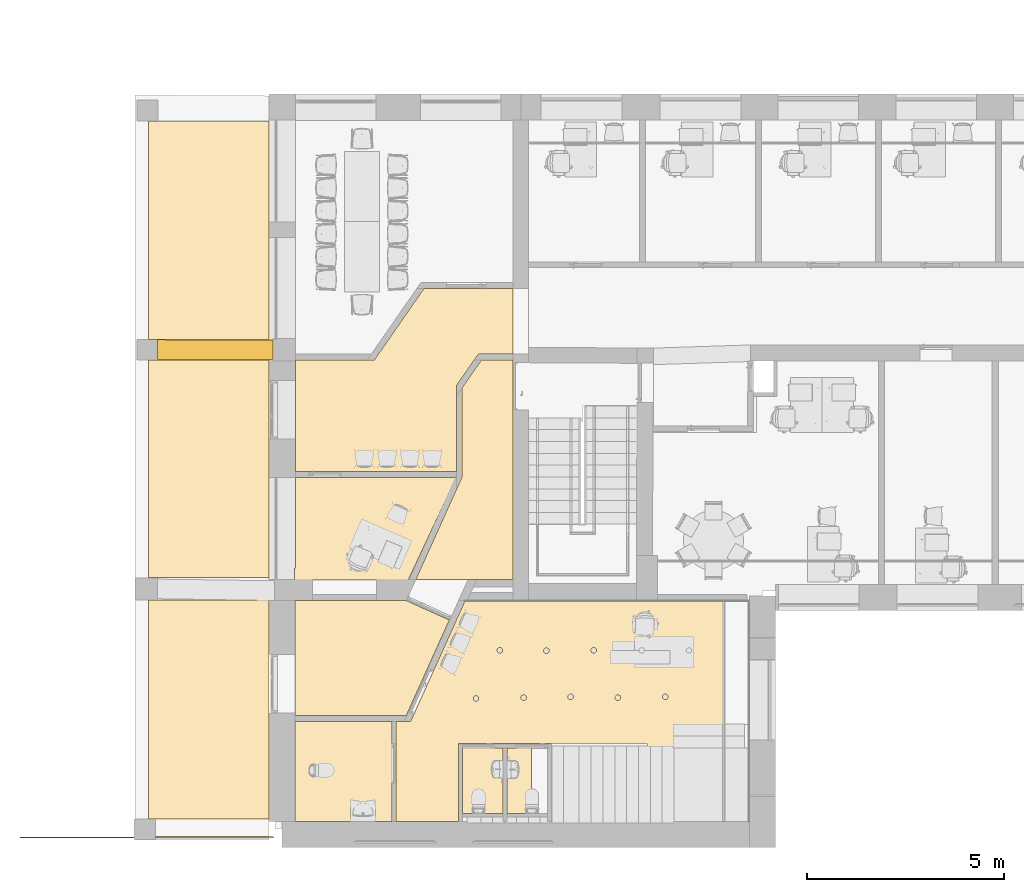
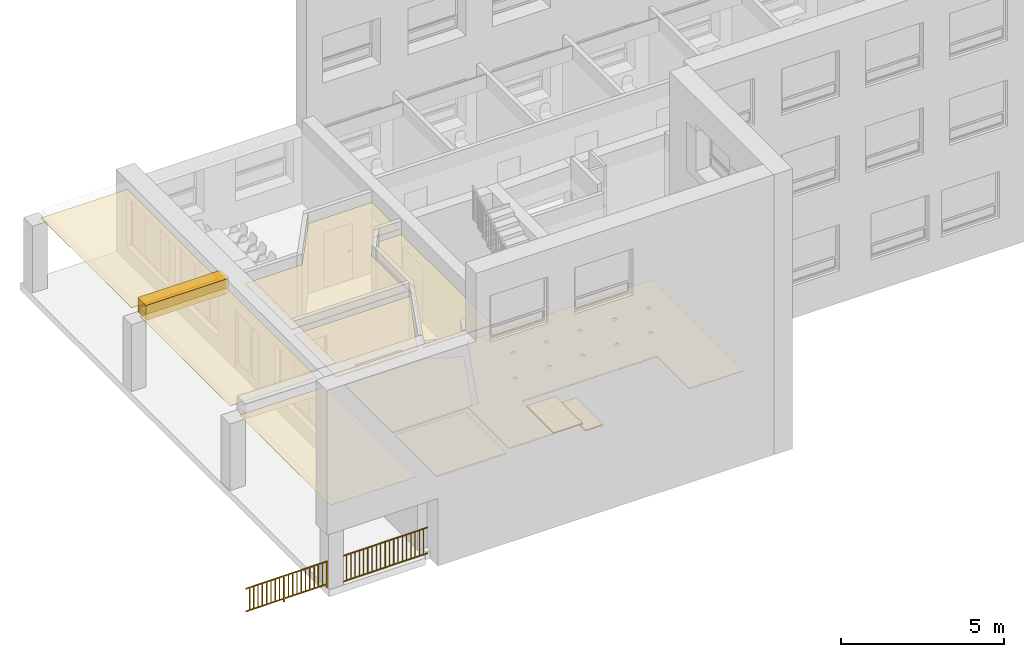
# One storey, part 19 of 25: 12 coverings, 2 railings.
"""IFC2X3 building model written with IfcOpenShell, lengths in millimetres."""

import ifcopenshell
import ifcopenshell.guid

model = None  # the IFC model being written
_history = None  # IfcOwnerHistory: only IFC2X3 demands one
_inside = {}  # id of a spatial element -> (the spatial element, [elements in it])
_under = {}  # id of a project, library or spatial element -> (it, [spatial elements below it])
_declared = {}  # id of a project -> (the project, [libraries it declares])
_typed = {}  # id of a type object -> (the type object, [elements of that type])
_made_of = {}  # id of a material, layer set ... -> (it, [elements and type objects made of it])


def new_model(schema):
    """Start an empty IFC model of exactly this schema.

    Asked for "IFC4X3", IfcOpenShell would pick the latest addendum, in which some entities
    have other attributes; the version numbers below select the first issue.
    IFC2X3 requires an IfcOwnerHistory on every rooted entity: one is made here for all.
    """
    global model, _history
    if schema == "IFC4X3":
        model = ifcopenshell.file(schema_version=(4, 3, 0, 0))
    else:
        model = ifcopenshell.file(schema=schema)
    _inside.clear()
    _under.clear()
    _declared.clear()
    _typed.clear()
    _made_of.clear()
    _history = None
    if model.schema == "IFC2X3":
        org = make("IfcOrganization", Name="unknown")
        user = make(
            "IfcPersonAndOrganization",
            ThePerson=make("IfcPerson", FamilyName="unknown"),
            TheOrganization=org,
        )
        app = make(
            "IfcApplication",
            ApplicationDeveloper=org,
            Version="unknown",
            ApplicationFullName="unknown",
            ApplicationIdentifier="unknown",
        )
        _history = make(
            "IfcOwnerHistory",
            OwningUser=user,
            OwningApplication=app,
            ChangeAction="ADDED",
            CreationDate=0,
        )
    return model


def make(cls, **values):
    """One entity of the class cls with the attributes given. An attribute that is None is left unset."""
    return model.create_entity(
        cls, **{name: value for name, value in values.items() if value is not None}
    )


def entity(cls, *values):
    """Any entity or typed value of the class cls, its attributes in the order of the schema. None: left unset."""
    e = model.create_entity(cls)
    for i, value in enumerate(values):
        if value is not None:
            e[i] = value
    return e


def rooted(cls, **values):
    """An entity with a GlobalId (a new one), such as an element, a storey or a relation."""
    return make(cls, GlobalId=ifcopenshell.guid.new(), OwnerHistory=_history, **values)


def si_unit(unit_type, name, prefix=None):
    """IfcSIUnit, for example si_unit("LENGTHUNIT", "METRE", prefix="MILLI")."""
    return make("IfcSIUnit", UnitType=unit_type, Prefix=prefix, Name=name)


def converted_unit(unit_type, name, factor, base, dimensions=None, offset=None):
    """IfcConversionBasedUnit, such as the inch: factor (a typed value) times the base unit."""
    return make(
        "IfcConversionBasedUnit"
        if offset is None
        else "IfcConversionBasedUnitWithOffset",
        ConversionOffset=offset,
        Dimensions=None
        if dimensions is None
        else entity("IfcDimensionalExponents", *dimensions),
        UnitType=unit_type,
        Name=name,
        ConversionFactor=make(
            "IfcMeasureWithUnit", ValueComponent=factor, UnitComponent=base
        ),
    )


def derived_unit(unit_type, elements):
    """IfcDerivedUnit: a product of units, each with its exponent."""
    return make(
        "IfcDerivedUnit",
        Elements=[
            make("IfcDerivedUnitElement", Unit=unit, Exponent=power)
            for unit, power in elements
        ],
        UnitType=unit_type,
    )


def assignment(units):
    """IfcUnitAssignment: the units of a project."""
    return None if units is None else make("IfcUnitAssignment", Units=units)


def point(xyz):
    """IfcCartesianPoint."""
    return None if xyz is None else make("IfcCartesianPoint", Coordinates=xyz)


def direction(xyz):
    """IfcDirection."""
    return None if xyz is None else make("IfcDirection", DirectionRatios=xyz)


def frame(location, z_axis=None, x_axis=None):
    """IfcAxis2Placement3D, a coordinate frame: its origin and axes. An axis left out is left unset."""
    return make(
        "IfcAxis2Placement3D",
        Location=point(location),
        Axis=direction(z_axis),
        RefDirection=direction(x_axis),
    )


def frame_2d(location, x_axis=None):
    """IfcAxis2Placement2D, a coordinate frame in the plane: its origin and x axis."""
    return make(
        "IfcAxis2Placement2D", Location=point(location), RefDirection=direction(x_axis)
    )


def origin():
    """The frame at (0, 0, 0) with its axes left unset."""
    return frame((0.0, 0.0, 0.0))


def place(relative_to, where):
    """IfcLocalPlacement: puts the frame where relative to a parent placement (None: the world)."""
    return make(
        "IfcLocalPlacement", PlacementRelTo=relative_to, RelativePlacement=where
    )


def context(
    kind, dimensions, precision=None, world=None, true_north=None, identifier=None
):
    """IfcGeometricRepresentationContext, for example the 3D "Model" context."""
    return make(
        "IfcGeometricRepresentationContext",
        ContextIdentifier=identifier,
        ContextType=kind,
        CoordinateSpaceDimension=dimensions,
        Precision=precision,
        WorldCoordinateSystem=world,
        TrueNorth=true_north,
    )


def subcontext(parent, identifier, kind, view, scale=None):
    """IfcGeometricRepresentationSubContext, for example "Body" below "Model"."""
    return make(
        "IfcGeometricRepresentationSubContext",
        ContextIdentifier=identifier,
        ContextType=kind,
        ParentContext=parent,
        TargetScale=scale,
        TargetView=view,
    )


def project(units=None, contexts=None):
    """IfcProject with its units and contexts."""
    return rooted(
        "IfcProject",
        Name="project",
        RepresentationContexts=contexts,
        UnitsInContext=assignment(units),
    )


def spatial(cls, under=None, at=None, **own):
    """A site, building, storey or space (cls), placed at a placement, below another one or the project."""
    s = rooted(cls, ObjectPlacement=at, **own)
    if under is not None:
        _under.setdefault(under.id(), (under, []))[1].append(s)
    return s


def polyline(points):
    """IfcPolyline through the points."""
    return make("IfcPolyline", Points=[point(p) for p in points])


def circle_curve(where, radius):
    """IfcCircle in the frame where."""
    return make("IfcCircle", Position=where, Radius=radius)


def parameter(value):
    """IfcParameterValue: where a trimmed curve begins or ends, as a parameter of its basis curve."""
    return model.create_entity("IfcParameterValue", value)


def trimmed(basis, trim1, trim2, sense, master):
    """IfcTrimmedCurve: the piece of a basis curve between two trims."""
    return make(
        "IfcTrimmedCurve",
        BasisCurve=basis,
        Trim1=trim1,
        Trim2=trim2,
        SenseAgreement=sense,
        MasterRepresentation=master,
    )


def segment(curve, same_sense, transition):
    """IfcCompositeCurveSegment."""
    return make(
        "IfcCompositeCurveSegment",
        Transition=transition,
        SameSense=same_sense,
        ParentCurve=curve,
    )


def composite_curve(segments, self_intersect=None):
    """IfcCompositeCurve: segments joined end to end."""
    return make("IfcCompositeCurve", Segments=segments, SelfIntersect=self_intersect)


def profile(cls, at=None, kind="AREA", **sizes):
    """A parametric profile (cls). Its sizes go by their IFC names, for example OverallWidth=200.0."""
    return make(cls, ProfileType=kind, Position=at, **sizes)


def rectangle(**sizes):
    """IfcRectangleProfileDef."""
    return profile("IfcRectangleProfileDef", **sizes)


def outline(outer, holes=None, kind="AREA"):
    """IfcArbitraryClosedProfileDef: a profile drawn as a closed curve; with holes, ...WithVoids."""
    if holes is None:
        return make("IfcArbitraryClosedProfileDef", ProfileType=kind, OuterCurve=outer)
    return make(
        "IfcArbitraryProfileDefWithVoids",
        ProfileType=kind,
        OuterCurve=outer,
        InnerCurves=holes,
    )


def extrude(swept, where, along, depth):
    """IfcExtrudedAreaSolid: the profile swept, set in the frame where, extruded along a direction by depth."""
    return make(
        "IfcExtrudedAreaSolid",
        SweptArea=swept,
        Position=where,
        ExtrudedDirection=direction(along),
        Depth=depth,
    )


def shape(context_of_items, identifier, shape_type, items):
    """IfcShapeRepresentation: the items that make up one representation, for example the "Body"."""
    return make(
        "IfcShapeRepresentation",
        ContextOfItems=context_of_items,
        RepresentationIdentifier=identifier,
        RepresentationType=shape_type,
        Items=items,
    )


def source(mapping_origin, context_of_items, identifier, shape_type, items):
    """IfcRepresentationMap: a shape defined once, which mapped items show again and again."""
    return make(
        "IfcRepresentationMap",
        MappingOrigin=mapping_origin,
        MappedRepresentation=shape(context_of_items, identifier, shape_type, items),
    )


def transform(
    local_origin,
    x_axis=None,
    y_axis=None,
    z_axis=None,
    scale=None,
    scale2=None,
    scale3=None,
    uniform=True,
):
    """IfcCartesianTransformationOperator3D, or its non-uniform kind. x_axis, y_axis, z_axis: its Axis1, 2, 3."""
    if uniform:
        return make(
            "IfcCartesianTransformationOperator3D",
            Axis1=direction(x_axis),
            Axis2=direction(y_axis),
            LocalOrigin=point(local_origin),
            Scale=scale,
            Axis3=direction(z_axis),
        )
    return make(
        "IfcCartesianTransformationOperator3DnonUniform",
        Axis1=direction(x_axis),
        Axis2=direction(y_axis),
        LocalOrigin=point(local_origin),
        Scale=scale,
        Axis3=direction(z_axis),
        Scale2=scale2,
        Scale3=scale3,
    )


def mapped(mapping_source, mapping_target):
    """IfcMappedItem: shows the shape of a source again, moved by a transform."""
    return make(
        "IfcMappedItem", MappingSource=mapping_source, MappingTarget=mapping_target
    )


def material(Name=None, Category=None):
    """IfcMaterial."""
    return make("IfcMaterial", Name=Name, Category=Category)


def layer(
    of_material, thickness, ventilated=None, Name=None, Category=None, Priority=None
):
    """IfcMaterialLayer: one layer of a wall or slab, of a material (None: an air gap)."""
    return make(
        "IfcMaterialLayer",
        Material=of_material,
        LayerThickness=thickness,
        IsVentilated=ventilated,
        Name=Name,
        Category=Category,
        Priority=Priority,
    )


def layer_set(layers, Name=None):
    """IfcMaterialLayerSet."""
    return make("IfcMaterialLayerSet", MaterialLayers=layers, LayerSetName=Name)


def layer_usage(for_layer_set, set_direction, sense, offset, extent=None):
    """IfcMaterialLayerSetUsage: how a layer set lies in its element."""
    return make(
        "IfcMaterialLayerSetUsage",
        ForLayerSet=for_layer_set,
        LayerSetDirection=set_direction,
        DirectionSense=sense,
        OffsetFromReferenceLine=offset,
        ReferenceExtent=extent,
    )


def made_of(thing, what):
    """Note that an element or type object is made of a material, layer set ...; save() writes the relation."""
    if what is not None:
        _made_of.setdefault(what.id(), (what, []))[1].append(thing)
    return thing


def type_object(cls, material=None, **own):
    """A type object (cls), such as IfcWallType, which elements share."""
    return made_of(rooted(cls, **own), material)


def type_shapes(of_type, sources):
    """Give a type object the sources (RepresentationMaps) that its elements show as mapped items."""
    of_type.RepresentationMaps = sources


def element(
    cls,
    number,
    at=None,
    inside=None,
    cuts=None,
    type_object=None,
    material=None,
    context=None,
    identifier="Body",
    shape_type=None,
    held_by="IfcProductDefinitionShape",
    body=None,
    shapes=None,
    **own,
):
    """One element of the class cls, such as IfcWall. Its Tag is "e" and its number.

    at: its placement. inside: the storey or other place that contains it. cuts: it is an
    opening in that element (IfcRelVoidsElement). A single representation is given by context,
    identifier, shape_type and body (its items); several are given by shapes. held_by: the class
    of the entity that holds the representations. save() writes the other relations.
    """
    e = rooted(cls, Tag="e%d" % number, ObjectPlacement=at, **own)
    if body is not None:
        shapes = [shape(context, identifier, shape_type, body)]
    if shapes is not None:
        e.Representation = make(held_by, Representations=shapes)
    if inside is not None:
        _inside.setdefault(inside.id(), (inside, []))[1].append(e)
    if cuts is not None:
        rooted(
            "IfcRelVoidsElement", RelatingBuildingElement=cuts, RelatedOpeningElement=e
        )
    if type_object is not None:
        _typed.setdefault(type_object.id(), (type_object, []))[1].append(e)
    return made_of(e, material)


def aggregate(whole, parts):
    """IfcRelAggregates: a whole, such as a stair, and the parts it consists of."""
    return rooted("IfcRelAggregates", RelatingObject=whole, RelatedObjects=parts)


def save(model, path):
    """Write the relations noted so far, then the file.

    IfcRelAggregates (storeys below a building ...), IfcRelContainedInSpatialStructure (elements
    in a storey), IfcRelDefinesByType, IfcRelAssociatesMaterial and IfcRelDeclares: one each for
    every whole, place, type object, material and project.
    """
    for whole, parts in _under.values():
        aggregate(whole, parts)
    for where, things in _inside.values():
        rooted(
            "IfcRelContainedInSpatialStructure",
            RelatedElements=things,
            RelatingStructure=where,
        )
    for kind, things in _typed.values():
        rooted("IfcRelDefinesByType", RelatedObjects=things, RelatingType=kind)
    for what, things in _made_of.values():
        rooted("IfcRelAssociatesMaterial", RelatedObjects=things, RelatingMaterial=what)
    for by, libraries in _declared.values():
        rooted("IfcRelDeclares", RelatingContext=by, RelatedDefinitions=libraries)
    model.write(path)


model = new_model("IFC2X3")

# Units and contexts
model_context = context("Model", 3, precision=0.01, world=origin(), true_north=direction((6.12303176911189e-17, 1.0)))
context_of_model = context(None, 3, precision=0.01, world=origin(), true_north=direction((6.12303176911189e-17, 1.0)))
body_context = subcontext(model_context, "Body", "Model", "MODEL_VIEW")
ifc_project = project(units=[si_unit("LENGTHUNIT", "METRE", prefix="MILLI"), si_unit("AREAUNIT", "SQUARE_METRE"), si_unit("VOLUMEUNIT", "CUBIC_METRE"), converted_unit("PLANEANGLEUNIT", "DEGREE", entity("IfcRatioMeasure", 0.0174532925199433), si_unit("PLANEANGLEUNIT", "RADIAN"), dimensions=[0, 0, 0, 0, 0, 0, 0]), si_unit("MASSUNIT", "GRAM", prefix="KILO"), derived_unit("MASSDENSITYUNIT", [(si_unit("MASSUNIT", "GRAM", prefix="KILO"), 1), (si_unit("LENGTHUNIT", "METRE"), -3)]), si_unit("TIMEUNIT", "SECOND"), si_unit("FREQUENCYUNIT", "HERTZ"), si_unit("THERMODYNAMICTEMPERATUREUNIT", "DEGREE_CELSIUS"), derived_unit("THERMALTRANSMITTANCEUNIT", [(si_unit("MASSUNIT", "GRAM", prefix="KILO"), 1), (si_unit("THERMODYNAMICTEMPERATUREUNIT", "KELVIN"), -1), (si_unit("TIMEUNIT", "SECOND"), -3)]), derived_unit("VOLUMETRICFLOWRATEUNIT", [(si_unit("LENGTHUNIT", "METRE"), 3), (si_unit("TIMEUNIT", "SECOND"), -1)]), si_unit("ELECTRICCURRENTUNIT", "AMPERE"), si_unit("ELECTRICVOLTAGEUNIT", "VOLT"), si_unit("POWERUNIT", "WATT"), si_unit("FORCEUNIT", "NEWTON", prefix="KILO"), si_unit("ILLUMINANCEUNIT", "LUX"), si_unit("LUMINOUSFLUXUNIT", "LUMEN"), si_unit("LUMINOUSINTENSITYUNIT", "CANDELA"), derived_unit("USERDEFINED", [(si_unit("MASSUNIT", "GRAM", prefix="KILO"), -1), (si_unit("LENGTHUNIT", "METRE"), -2), (si_unit("TIMEUNIT", "SECOND"), 3), (si_unit("LUMINOUSFLUXUNIT", "LUMEN"), 1)]), derived_unit("LINEARVELOCITYUNIT", [(si_unit("LENGTHUNIT", "METRE"), 1), (si_unit("TIMEUNIT", "SECOND"), -1)]), si_unit("PRESSUREUNIT", "PASCAL"), derived_unit("USERDEFINED", [(si_unit("LENGTHUNIT", "METRE"), -2), (si_unit("MASSUNIT", "GRAM", prefix="KILO"), 1), (si_unit("TIMEUNIT", "SECOND"), -2)])], contexts=[model_context, context_of_model])

# Site, building, storey
site_placement = place(None, frame((121442.264707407, 135347.995453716, -1800.0)))
site = spatial("IfcSite", under=ifc_project, at=site_placement, Name="Surface", CompositionType="ELEMENT")
building_placement = place(site_placement, origin())
building = spatial("IfcBuilding", under=site, at=building_placement, CompositionType="ELEMENT")
storey_placement = place(building_placement, frame((0.0, 0.0, 1800.0)))
storey = spatial("IfcBuildingStorey", under=building, at=storey_placement, Name="1 korrus", CompositionType="ELEMENT", Elevation=1800.00000000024)

# Railings
railing_type_1 = type_object("IfcRailingType", Name="Railings 3", PredefinedType="NOTDEFINED")
shared_shape_1 = source(origin(), body_context, "Body", "SweptSolid", [
    extrude(outline(polyline([(-670.945779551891, -1668.52420160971), (322.428053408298, -1668.52420160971), (322.428053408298, -1626.31091059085), (214.475458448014, -1626.31091059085), (221.083592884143, -149.01876920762), (322.595234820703, -149.01876920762), (322.595234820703, -106.519473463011), (221.273698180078, -106.519473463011), (227.245234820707, 1228.45702201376), (192.245234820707, 1228.45702201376), (191.641371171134, 1093.45931084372), (-617.05585687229, 1093.45931084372), (-616.2547651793, 1228.45702201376), (-653.7547651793, 1228.45702201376), (-670.945779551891, -1668.52420160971)]), holes=[polyline([(191.529542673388, 1068.45931084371), (190.992765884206, 948.459310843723), (-617.916303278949, 948.459310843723), (-617.204209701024, 1068.45931084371), (191.529542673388, 1068.45931084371)]), polyline([(190.880937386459, 923.459310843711), (190.321794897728, 798.459310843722), (-618.806420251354, 798.459310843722), (-618.064656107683, 923.459310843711), (190.880937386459, 923.459310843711)]), polyline([(190.209966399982, 773.459310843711), (189.650823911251, 648.459310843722), (-619.69653722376, 648.459310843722), (-618.954773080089, 773.459310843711), (190.209966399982, 773.459310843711)]), polyline([(189.538995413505, 623.45931084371), (188.957487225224, 493.459310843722), (-620.616324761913, 493.459310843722), (-619.844890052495, 623.45931084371), (189.538995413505, 623.45931084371)]), polyline([(188.845658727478, 468.459310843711), (188.286516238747, 343.459310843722), (-621.506441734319, 343.459310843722), (-620.764677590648, 468.459310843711), (188.845658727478, 468.459310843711)]), polyline([(188.174687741, 318.45931084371), (187.59317955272, 188.459310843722), (-622.426229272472, 188.459310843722), (-621.654794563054, 318.45931084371), (188.174687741, 318.45931084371)]), polyline([(187.481351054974, 163.459310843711), (186.934310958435, 41.1648806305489), (-623.300291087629, 41.1648806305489), (-622.574582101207, 163.459310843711), (187.481351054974, 163.459310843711)]), polyline([(186.822482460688, 16.1648806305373), (186.273698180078, -106.519473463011), (-624.176666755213, -106.519473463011), (-623.448643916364, 16.1648806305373), (186.822482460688, 16.1648806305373)]), polyline([(182.222869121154, -149.01876920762), (181.64137117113, -279.016480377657), (-627.055856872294, -279.016480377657), (-626.284435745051, -149.01876920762), (182.222869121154, -149.01876920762)]), polyline([(181.529542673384, -304.016480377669), (180.992765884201, -424.016480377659), (-627.916303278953, -424.016480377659), (-627.204209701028, -304.016480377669), (181.529542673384, -304.016480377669)]), polyline([(180.880937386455, -449.016480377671), (180.321794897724, -574.01648037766), (-628.806420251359, -574.01648037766), (-628.064656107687, -449.016480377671), (180.880937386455, -449.016480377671)]), polyline([(180.209966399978, -599.016480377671), (179.650823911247, -724.01648037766), (-629.696537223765, -724.01648037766), (-628.954773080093, -599.016480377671), (180.209966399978, -599.016480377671)]), polyline([(179.5389954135, -749.016480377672), (178.95748722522, -879.01648037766), (-630.616324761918, -879.01648037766), (-629.844890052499, -749.016480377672), (179.5389954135, -749.016480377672)]), polyline([(178.845658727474, -904.016480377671), (178.286516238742, -1029.01648037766), (-631.506441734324, -1029.01648037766), (-630.764677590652, -904.016480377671), (178.845658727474, -904.016480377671)]), polyline([(178.174687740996, -1054.01648037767), (177.593179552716, -1184.01648037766), (-632.426229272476, -1184.01648037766), (-631.654794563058, -1054.01648037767), (178.174687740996, -1054.01648037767)]), polyline([(177.481351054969, -1209.01648037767), (176.934310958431, -1331.31091059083), (-633.300291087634, -1331.31091059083), (-632.574582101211, -1209.01648037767), (177.481351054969, -1209.01648037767)]), polyline([(176.822482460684, -1356.31091059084), (176.822482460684, -1478.99526468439), (-634.176666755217, -1478.99526468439), (-633.448643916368, -1356.31091059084), (176.822482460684, -1356.31091059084)]), polyline([(175.614734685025, -1501.31091059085), (175.614734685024, -1626.31091059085), (-633.448643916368, -1626.31091059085), (-633.448643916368, -1501.31091059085), (175.614734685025, -1501.31091059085)])]), frame((-120973.681069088, -133573.407106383, 2184.45628380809), z_axis=(0.0, 1.0, 0.0), x_axis=(0.0, 0.0, -1.0)), (0.0, 0.0, 1.0), 35.2797443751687),
])
type_shapes(railing_type_1, [shared_shape_1])
railing_1_placement = place(storey_placement, frame((0.0, 0.0, -1800.0)))
element("IfcRailing", 1, at=railing_1_placement, inside=storey, type_object=railing_type_1, Name="Railings 3:Railings 3", ObjectType="Railings 3", PredefinedType="NOTDEFINED", context=body_context, shape_type="MappedRepresentation", body=[
    mapped(shared_shape_1, transform((0.0, 0.0, 0.0), scale=1.0)),
])
railing_type_2 = type_object("IfcRailingType", Name="Railings 4", PredefinedType="NOTDEFINED")
shared_shape_2 = source(origin(), body_context, "Body", "SweptSolid", [
    extrude(outline(polyline([(-473.935098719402, 1365.518428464), (-474.834968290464, 1503.04220084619), (-504.834968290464, 1503.04220084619), (-485.185569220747, -1499.90352818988), (-455.185569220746, -1499.90352818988), (-456.023826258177, -1371.79577377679), (473.976173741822, -1371.79577377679), (474.814430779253, -1499.90352818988), (504.814430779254, -1499.90352818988), (485.165031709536, 1503.04220084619), (455.165031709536, 1503.04220084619), (456.064901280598, 1365.518428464), (-473.935098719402, 1365.518428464)]), holes=[polyline([(456.17941033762, 1348.01842846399), (457.045809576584, 1215.60980441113), (-472.954190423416, 1215.60980441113), (-473.82058966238, 1348.01842846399), (456.17941033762, 1348.01842846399)]), polyline([(457.160318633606, 1198.10980441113), (458.027315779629, 1065.60980441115), (-471.972684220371, 1065.60980441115), (-472.839681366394, 1198.10980441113), (457.160318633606, 1198.10980441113)]), polyline([(458.141824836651, 1048.10980441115), (459.00820414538, 915.704226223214), (-470.99179585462, 915.704226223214), (-471.858175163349, 1048.10980441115), (458.141824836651, 1048.10980441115)]), polyline([(459.122713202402, 898.204226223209), (459.988320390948, 765.916648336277), (-470.011679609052, 765.916648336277), (-470.877286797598, 898.204226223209), (459.122713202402, 898.204226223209)]), polyline([(460.10282944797, 748.416648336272), (460.93971542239, 620.518428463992), (-469.060284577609, 620.518428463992), (-469.89717055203, 748.416648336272), (460.10282944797, 748.416648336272)]), polyline([(461.054224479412, 603.018428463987), (461.953340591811, 465.609804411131), (-468.046659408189, 465.609804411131), (-468.945775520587, 603.018428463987), (461.054224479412, 603.018428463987)]), polyline([(462.067849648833, 448.109804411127), (462.967563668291, 310.609804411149), (-467.032436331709, 310.609804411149), (-467.932150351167, 448.109804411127), (462.067849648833, 448.109804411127)]), polyline([(463.082072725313, 293.109804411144), (463.915735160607, 165.704226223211), (-466.084264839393, 165.704226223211), (-466.917927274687, 293.109804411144), (463.082072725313, 293.109804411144)]), polyline([(464.030244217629, 148.204226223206), (464.928568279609, 10.9166483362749), (-465.07143172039, 10.9166483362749), (-465.969755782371, 148.204226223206), (464.030244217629, 148.204226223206)]), polyline([(465.043077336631, -6.58335166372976), (466.043547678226, -159.481571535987), (-463.956452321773, -159.481571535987), (-464.956922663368, -6.58335166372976), (465.043077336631, -6.58335166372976)]), polyline([(466.158056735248, -176.981571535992), (466.991739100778, -304.390195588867), (-463.008260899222, -304.390195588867), (-463.841943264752, -176.981571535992), (466.158056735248, -176.981571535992)]), polyline([(468.005962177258, -459.390195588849), (-461.994037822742, -459.390195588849), (-462.8937518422, -321.890195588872), (467.1062481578, -321.890195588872), (468.005962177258, -459.390195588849)]), polyline([(468.120471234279, -476.890195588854), (468.97049210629, -606.79577377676), (-461.029507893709, -606.79577377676), (-461.87952876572, -476.890195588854), (468.120471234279, -476.890195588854)]), polyline([(469.085001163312, -624.295773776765), (469.950608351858, -756.583351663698), (-460.049391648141, -756.583351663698), (-460.914998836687, -624.295773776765), (469.085001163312, -624.295773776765)]), polyline([(470.06511740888, -774.083351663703), (470.918361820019, -904.481571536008), (-459.081638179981, -904.481571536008), (-459.93488259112, -774.083351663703), (470.06511740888, -774.083351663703)]), polyline([(471.032870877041, -921.981571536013), (471.899270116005, -1054.39019558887), (-458.100729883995, -1054.39019558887), (-458.967129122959, -921.981571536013), (471.032870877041, -921.981571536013)]), polyline([(472.013779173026, -1071.89019558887), (472.88077631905, -1204.39019558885), (-457.11922368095, -1204.39019558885), (-457.986220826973, -1071.89019558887), (472.013779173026, -1071.89019558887)]), polyline([(472.995285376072, -1221.89019558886), (473.8616646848, -1354.29577377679), (-456.1383353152, -1354.29577377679), (-457.004714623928, -1221.89019558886), (472.995285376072, -1221.89019558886)])]), frame((-117267.099561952, -133571.760614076, 2370.22804841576), z_axis=(0.0, -1.0, 0.0), x_axis=(0.0, 0.0, -1.0)), (0.0, 0.0, -1.0), 39.5293726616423),
])
type_shapes(railing_type_2, [shared_shape_2])
railing_2_placement = place(storey_placement, frame((0.0, 0.0, -1800.0)))
element("IfcRailing", 2, at=railing_2_placement, inside=storey, type_object=railing_type_2, Name="Railings 4:Railings 4", ObjectType="Railings 4", PredefinedType="NOTDEFINED", context=body_context, shape_type="MappedRepresentation", body=[
    mapped(shared_shape_2, transform((0.0, 0.0, 0.0), scale=1.0)),
])

# Coverings
covering_1_placement = place(storey_placement, origin())
element("IfcCovering", 3, at=covering_1_placement, inside=storey, Name="Ceilings 17:Ceilings 17", ObjectType="Ceilings 17:Ceilings 17", PredefinedType="CEILING", context=body_context, shape_type="SweptSolid", body=[
    extrude(outline(polyline([(-1466.438154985, -250.464234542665), (1468.07221732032, -250.464234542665), (1466.42254196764, 255.250468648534), (-1468.05660430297, 245.678000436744), (-1466.438154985, -250.464234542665)])), frame((-117248.08849866, -121176.735272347, 2472.33300325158), z_axis=(0.0, 0.0, 1.0), x_axis=(-0.999994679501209, 0.00326204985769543, 0.0)), (0.0, 0.0, 1.0), 552.124743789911),
])
ifc_material_1 = material(Name="EST. Ripplagi. Moodullagi. 600 x 600 mm")
ifc_layer_1 = layer(ifc_material_1, 35.0)
ifc_layer_set_1 = layer_set([ifc_layer_1], Name="Compound Ceiling:600x600 Focus")
ifc_layer_usage_1 = layer_usage(ifc_layer_set_1, "AXIS3", "POSITIVE", 0.0)
covering_2_placement = place(storey_placement, origin())
element("IfcCovering", 4, at=covering_2_placement, inside=storey, material=ifc_layer_usage_1, Name="Compound Ceiling:600x600 Focus", ObjectType="Compound Ceiling:600x600 Focus", PredefinedType="CEILING", context=body_context, shape_type="SweptSolid", body=[
    extrude(outline(polyline([(-1719.34790900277, 1161.90534634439), (-3007.19165923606, -693.28468499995), (-1646.89379468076, -1637.58207433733), (-1150.6787397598, -922.764595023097), (-165.585116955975, -918.771873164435), (1622.85449131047, -2160.27852922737), (3953.7920276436, 1197.52949702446), (1629.0316953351, 2811.34156703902), (484.019005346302, 1161.90534634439), (-1719.34790900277, 1161.90534634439)])), frame((-111977.385667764, -121699.739832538, 2600.0), z_axis=(0.0, 0.0, -1.0), x_axis=(-0.570251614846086, -0.821470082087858, 0.0)), (0.0, 0.0, -1.0), 35.0000000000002),
])
ifc_material_2 = material(Name="Default")
ifc_layer_2 = layer(ifc_material_2, 36.0)
ifc_material_3 = material(Name="Ceiling Tile 600 x 600")
ifc_layer_3 = layer(ifc_material_3, 8.0)
ifc_layer_set_2 = layer_set([ifc_layer_2, ifc_layer_3], Name="Compound Ceiling:600 x 600mm Vinyyl")
ifc_layer_usage_2 = layer_usage(ifc_layer_set_2, "AXIS3", "POSITIVE", 0.0)
covering_3_placement = place(storey_placement, origin())
element("IfcCovering", 5, at=covering_3_placement, inside=storey, material=ifc_layer_usage_2, Name="Compound Ceiling:600 x 600mm Vinyyl", ObjectType="Compound Ceiling:600 x 600mm Vinyyl", PredefinedType="CEILING", context=body_context, shape_type="SweptSolid", body=[
    extrude(rectangle(XDim=2544.46259553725, YDim=2466.76597489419, at=frame_2d((-8.64019966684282e-12, -8.64019966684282e-12), x_axis=(1.0, 0.0))), frame((-113992.393623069, -131878.695868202, 2500.0), z_axis=(0.0, 0.0, 1.0), x_axis=(0.0, 1.0, 0.0)), (0.0, 0.0, 1.0), 43.9999999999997),
])
ifc_layer_usage_3 = layer_usage(ifc_layer_set_2, "AXIS3", "POSITIVE", 0.0)
covering_4_placement = place(storey_placement, origin())
element("IfcCovering", 6, at=covering_4_placement, inside=storey, material=ifc_layer_usage_3, Name="Compound Ceiling:600 x 600mm Vinyyl", ObjectType="Compound Ceiling:600 x 600mm Vinyyl", PredefinedType="CEILING", context=body_context, shape_type="SweptSolid", body=[
    extrude(rectangle(XDim=1657.49999999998, YDim=1030.00684598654, at=frame_2d((8.64019966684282e-12, -8.69704308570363e-12), x_axis=(1.0, 0.0))), frame((-110453.997657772, -132114.677165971, 2500.0), z_axis=(0.0, 0.0, 1.0), x_axis=(0.0, 1.0, 0.0)), (0.0, 0.0, 1.0), 43.9999999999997),
])

# Space
space_1_placement = place(storey_placement, origin())
space_1 = spatial("IfcSpace", under=storey, at=space_1_placement, Name="126", CompositionType="ELEMENT", InteriorOrExteriorSpace="INTERNAL")

# Covering
ifc_layer_usage_4 = layer_usage(ifc_layer_set_2, "AXIS3", "POSITIVE", 0.0)
covering_5_placement = place(space_1_placement, origin())
element("IfcCovering", 7, at=covering_5_placement, inside=space_1, material=ifc_layer_usage_4, Name="Compound Ceiling:600 x 600mm Vinyyl", ObjectType="Compound Ceiling:600 x 600mm Vinyyl", PredefinedType="CEILING", context=body_context, shape_type="SweptSolid", body=[
    extrude(rectangle(XDim=622.584238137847, YDim=1657.49999999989, at=frame_2d((-8.66862137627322e-12, 0.0), x_axis=(1.0, 0.0))), frame((-109527.70211571, -132114.677165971, 2200.0), z_axis=(0.0, 0.0, 1.0), x_axis=(-1.0, 0.0, 0.0)), (0.0, 0.0, 1.0), 43.9999999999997),
])

# Space
space_2_placement = place(storey_placement, origin())
space_2 = spatial("IfcSpace", under=storey, at=space_2_placement, Name="127", CompositionType="ELEMENT", InteriorOrExteriorSpace="INTERNAL")

# Coverings
ifc_layer_usage_5 = layer_usage(ifc_layer_set_1, "AXIS3", "POSITIVE", 0.0)
covering_6_placement = place(space_2_placement, origin())
element("IfcCovering", 8, at=covering_6_placement, inside=space_2, material=ifc_layer_usage_5, Name="Compound Ceiling:600x600 Focus", ObjectType="Compound Ceiling:600x600 Focus", PredefinedType="CEILING", context=body_context, shape_type="SweptSolid", body=[
    extrude(outline(polyline([(-4832.49847152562, -3570.18503868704), (1712.56108410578, -3570.18503868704), (3090.76158752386, -517.06743672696), (3462.72312944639, -517.06743672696), (3462.72312944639, 2027.39515881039), (1872.71357458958, 2027.39515881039), (1872.71357458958, 42.9212274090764), (-2904.59956832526, 42.9212274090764), (-2904.59956832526, 2016.93608919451), (-4832.49847152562, 2016.93608919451), (-4832.49847152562, -3570.18503868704)]), holes=[composite_curve([segment(trimmed(circle_curve(frame_2d((825.97720123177, -2319.22998209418), x_axis=(-1.0, 0.0)), 69.9999999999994), [parameter(180.0)], [parameter(0.0)], True, "PARAMETER"), False, "CONTINUOUS"), segment(trimmed(circle_curve(frame_2d((825.97720123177, -2319.22998209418), x_axis=(-1.0, 0.0)), 69.9999999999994), [parameter(0.0)], [parameter(180.0)], True, "PARAMETER"), False, "CONTINUOUS")], self_intersect=False), composite_curve([segment(trimmed(circle_curve(frame_2d((-354.02279876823, -2310.78909078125), x_axis=(-1.0, 0.0)), 69.9999999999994), [parameter(180.0)], [parameter(0.0)], True, "PARAMETER"), False, "CONTINUOUS"), segment(trimmed(circle_curve(frame_2d((-354.02279876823, -2310.78909078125), x_axis=(-1.0, 0.0)), 69.9999999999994), [parameter(0.0)], [parameter(180.0)], True, "PARAMETER"), False, "CONTINUOUS")], self_intersect=False), composite_curve([segment(trimmed(circle_curve(frame_2d((-1554.02279876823, -2317.60623811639), x_axis=(-1.0, 0.0)), 69.9999999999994), [parameter(180.0)], [parameter(0.0)], True, "PARAMETER"), False, "CONTINUOUS"), segment(trimmed(circle_curve(frame_2d((-1554.02279876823, -2317.60623811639), x_axis=(-1.0, 0.0)), 69.9999999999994), [parameter(0.0)], [parameter(180.0)], True, "PARAMETER"), False, "CONTINUOUS")], self_intersect=False), composite_curve([segment(trimmed(circle_curve(frame_2d((-2772.49847152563, -2316.71704498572), x_axis=(-1.0, 0.0)), 69.9999999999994), [parameter(180.0)], [parameter(0.0)], True, "PARAMETER"), False, "CONTINUOUS"), segment(trimmed(circle_curve(frame_2d((-2772.49847152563, -2316.71704498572), x_axis=(-1.0, 0.0)), 69.9999999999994), [parameter(0.0)], [parameter(180.0)], True, "PARAMETER"), False, "CONTINUOUS")], self_intersect=False), composite_curve([segment(trimmed(circle_curve(frame_2d((1432.71357458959, -1097.60484118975), x_axis=(-1.0, 0.0)), 69.9999999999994), [parameter(180.0)], [parameter(0.0)], True, "PARAMETER"), False, "CONTINUOUS"), segment(trimmed(circle_curve(frame_2d((1432.71357458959, -1097.60484118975), x_axis=(-1.0, 0.0)), 69.9999999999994), [parameter(0.0)], [parameter(180.0)], True, "PARAMETER"), False, "CONTINUOUS")], self_intersect=False), composite_curve([segment(trimmed(circle_curve(frame_2d((222.706728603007, -1117.60484118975), x_axis=(-1.0, 0.0)), 69.9999999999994), [parameter(180.0)], [parameter(0.0)], True, "PARAMETER"), False, "CONTINUOUS"), segment(trimmed(circle_curve(frame_2d((222.706728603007, -1117.60484118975), x_axis=(-1.0, 0.0)), 69.9999999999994), [parameter(0.0)], [parameter(180.0)], True, "PARAMETER"), False, "CONTINUOUS")], self_intersect=False), composite_curve([segment(trimmed(circle_curve(frame_2d((-967.299542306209, -1137.60484118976), x_axis=(-1.0, 0.0)), 69.9999999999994), [parameter(180.0)], [parameter(0.0)], True, "PARAMETER"), False, "CONTINUOUS"), segment(trimmed(circle_curve(frame_2d((-967.299542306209, -1137.60484118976), x_axis=(-1.0, 0.0)), 69.9999999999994), [parameter(0.0)], [parameter(180.0)], True, "PARAMETER"), False, "CONTINUOUS")], self_intersect=False), composite_curve([segment(trimmed(circle_curve(frame_2d((-2167.29954230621, -1117.60484118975), x_axis=(-1.0, 0.0)), 69.9999999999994), [parameter(180.0)], [parameter(0.0)], True, "PARAMETER"), False, "CONTINUOUS"), segment(trimmed(circle_curve(frame_2d((-2167.29954230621, -1117.60484118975), x_axis=(-1.0, 0.0)), 69.9999999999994), [parameter(0.0)], [parameter(180.0)], True, "PARAMETER"), False, "CONTINUOUS")], self_intersect=False), composite_curve([segment(trimmed(circle_curve(frame_2d((-3372.49847152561, -1137.60484118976), x_axis=(-1.0, 0.0)), 69.9999999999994), [parameter(180.0)], [parameter(0.0)], True, "PARAMETER"), False, "CONTINUOUS"), segment(trimmed(circle_curve(frame_2d((-3372.49847152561, -1137.60484118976), x_axis=(-1.0, 0.0)), 69.9999999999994), [parameter(0.0)], [parameter(180.0)], True, "PARAMETER"), False, "CONTINUOUS")], self_intersect=False), composite_curve([segment(trimmed(circle_curve(frame_2d((-3972.49847152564, -2316.71704498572), x_axis=(-1.0, 0.0)), 69.9999999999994), [parameter(180.0)], [parameter(0.0)], True, "PARAMETER"), False, "CONTINUOUS"), segment(trimmed(circle_curve(frame_2d((-3972.49847152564, -2316.71704498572), x_axis=(-1.0, 0.0)), 69.9999999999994), [parameter(0.0)], [parameter(180.0)], True, "PARAMETER"), False, "CONTINUOUS")], self_intersect=False)]), frame((-109196.287506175, -131123.53200716, 2650.0), z_axis=(0.0, 0.0, 1.0), x_axis=(-1.0, 0.0, 0.0)), (0.0, 0.0, 1.0), 35.0000000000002),
])
ifc_layer_usage_6 = layer_usage(ifc_layer_set_1, "AXIS3", "POSITIVE", 0.0)
covering_7_placement = place(storey_placement, origin())
element("IfcCovering", 9, at=covering_7_placement, inside=storey, material=ifc_layer_usage_6, Name="Compound Ceiling:600x600 Focus", ObjectType="Compound Ceiling:600x600 Focus", PredefinedType="CEILING", context=body_context, shape_type="SweptSolid", body=[
    extrude(outline(polyline([(-2124.28951582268, -1269.32699660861), (-1264.5676774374, -1269.32699660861), (586.159304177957, 26.5659870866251), (3396.73854740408, 557.895736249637), (1984.56931866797, 2574.6824054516), (-2578.60997698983, -620.490135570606), (-2124.28951582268, -1269.32699660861)])), frame((-110663.771299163, -123898.871828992, 2500.0), z_axis=(0.0, 0.0, 1.0), x_axis=(-0.573576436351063, -0.81915204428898, 0.0)), (0.0, 0.0, 1.0), 35.0000000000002),
])
ifc_layer_usage_7 = layer_usage(ifc_layer_set_1, "AXIS3", "POSITIVE", 0.0)
covering_8_placement = place(storey_placement, origin())
element("IfcCovering", 10, at=covering_8_placement, inside=storey, material=ifc_layer_usage_7, Name="Compound Ceiling:600x600 Focus", ObjectType="Compound Ceiling:600x600 Focus", PredefinedType="CEILING", context=body_context, shape_type="SweptSolid", body=[
    extrude(outline(polyline([(-2933.62230223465, -1636.58283691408), (1153.93742692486, -1636.58283691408), (1153.93742692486, 668.291418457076), (1168.58248279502, 668.291418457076), (1168.58248279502, 968.291418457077), (-1711.41751720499, 968.291418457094), (-2933.62230223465, -1636.58283691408)])), frame((-114061.839183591, -126051.351401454, 2500.0), z_axis=(0.0, 0.0, 1.0), x_axis=(-1.0, 0.0, 0.0)), (0.0, 0.0, 1.0), 35.0000000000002),
])
ifc_layer_usage_8 = layer_usage(ifc_layer_set_2, "AXIS3", "POSITIVE", 0.0)
covering_9_placement = place(storey_placement, origin())
element("IfcCovering", 11, at=covering_9_placement, inside=storey, material=ifc_layer_usage_8, Name="Compound Ceiling:600 x 600mm Vinyyl", ObjectType="Compound Ceiling:600 x 600mm Vinyyl", PredefinedType="CEILING", context=body_context, shape_type="SweptSolid", body=[
    extrude(outline(polyline([(-911.821366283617, -1265.11659880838), (1915.13608017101, -1265.11659880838), (1915.13608017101, 1650.64897746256), (-912.477012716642, 1650.64897746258), (-2005.97378134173, -771.064757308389), (-911.821366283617, -1265.11659880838)])), frame((-113310.640530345, -128806.429601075, 2500.0), z_axis=(0.0, 0.0, 1.0), x_axis=(-1.0, 0.0, 0.0)), (0.0, 0.0, 1.0), 43.9999999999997),
])
ifc_material_4 = material(Name="Aluminium, värvitud valge")
ifc_layer_4 = layer(ifc_material_4, 10.0)
ifc_layer_set_3 = layer_set([ifc_layer_4], Name="Compound Ceiling:Alumiinumripplagi")
ifc_layer_usage_9 = layer_usage(ifc_layer_set_3, "AXIS3", "POSITIVE", 0.0)
covering_10_placement = place(storey_placement, origin())
element("IfcCovering", 12, at=covering_10_placement, inside=storey, material=ifc_layer_usage_9, Name="Compound Ceiling:Alumiinumripplagi", ObjectType="Compound Ceiling:Alumiinumripplagi", PredefinedType="CEILING", context=body_context, shape_type="SweptSolid", body=[
    extrude(rectangle(XDim=3049.99999999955, YDim=5543.49357537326, at=frame_2d((-8.64019966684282e-12, -1.75077730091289e-11), x_axis=(1.0, 0.0))), frame((-117410.776610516, -118147.432324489, 2700.0), z_axis=(0.0, 0.0, 1.0), x_axis=(-1.0, 0.0, 0.0)), (0.0, 0.0, 1.0), 9.99999999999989),
])
ifc_layer_usage_10 = layer_usage(ifc_layer_set_3, "AXIS3", "POSITIVE", 0.0)
covering_11_placement = place(storey_placement, origin())
element("IfcCovering", 13, at=covering_11_placement, inside=storey, material=ifc_layer_usage_10, Name="Compound Ceiling:Alumiinumripplagi", ObjectType="Compound Ceiling:Alumiinumripplagi", PredefinedType="CEILING", context=body_context, shape_type="SweptSolid", body=[
    extrude(rectangle(XDim=3049.99999999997, YDim=5519.2541275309, at=frame_2d((-8.64019966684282e-12, -8.64019966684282e-12), x_axis=(1.0, 0.0))), frame((-117410.776610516, -124200.137092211, 2700.0), z_axis=(0.0, 0.0, 1.0), x_axis=(-1.0, 0.0, 0.0)), (0.0, 0.0, 1.0), 9.99999999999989),
])
ifc_layer_usage_11 = layer_usage(ifc_layer_set_3, "AXIS3", "POSITIVE", 0.0)
covering_12_placement = place(storey_placement, origin())
element("IfcCovering", 14, at=covering_12_placement, inside=storey, material=ifc_layer_usage_11, Name="Compound Ceiling:Alumiinumripplagi", ObjectType="Compound Ceiling:Alumiinumripplagi", PredefinedType="CEILING", context=body_context, shape_type="SweptSolid", body=[
    extrude(rectangle(XDim=3049.99999999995, YDim=5562.13002562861, at=frame_2d((0.0, 1.72803993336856e-11), x_axis=(1.0, 0.0))), frame((-117410.776610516, -130303.961332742, 2700.0), z_axis=(0.0, 0.0, 1.0), x_axis=(-1.0, 0.0, 0.0)), (0.0, 0.0, 1.0), 9.99999999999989),
])

save(model, "model.ifc")
